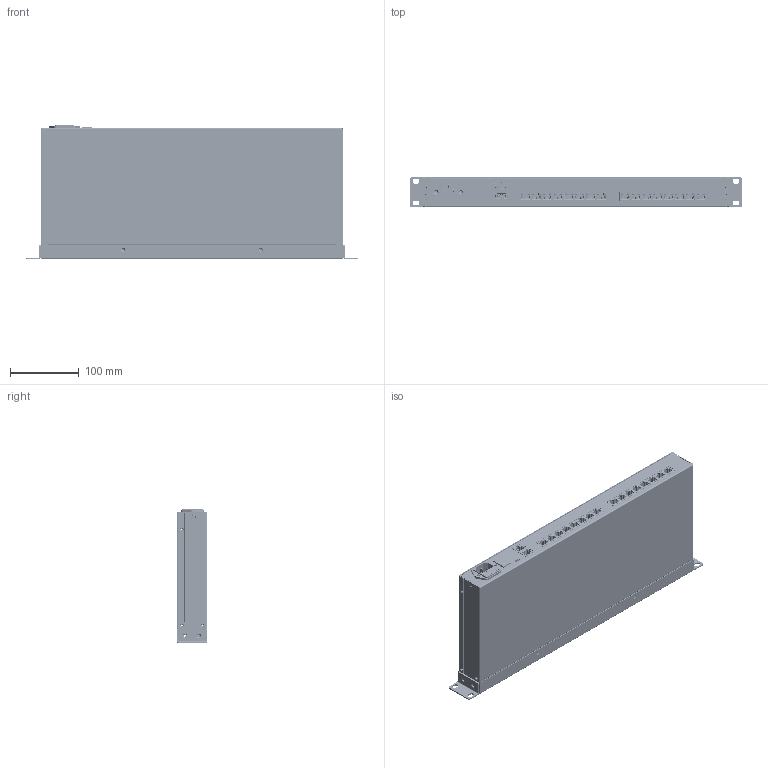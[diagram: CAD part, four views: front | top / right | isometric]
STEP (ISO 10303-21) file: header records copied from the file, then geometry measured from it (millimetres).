
FILE_DESCRIPTION((''),'2;1');
FILE_NAME('00-GCOM16-2NET-P_ASM','2026-07-30T16:22:34',('hepeizong'),(''),'CREO PARAMETRIC BY PTC INC, 2021404','CREO PARAMETRIC BY PTC INC, 2021404','');
FILE_SCHEMA(('CONFIG_CONTROL_DESIGN','SHAPE_APPEARANCE_LAYERS_GROUPS'));
Products named in the file (149): 04-BOT-COVER; _M30001; NUT-M3-9; NUT-M3; NUT-M3-7-TAIJIE; NUT-M4-7; 03-BOT-ME_ASM; DIANYUAN-CHATOU; 04-MAIN-PCB; ADMI0DE8BB573FZI_1_1; ADMI0DE8BB573FZI_2_1; ADMI0DE8BB573FZI_3_1; ADMI0DE8BB573FZI_4_1; ADMI0DE8BB573FZI_5_1; ADMI0DE8BB573FZI_6_1; ADMI0DE8BB573FZI_7_1; ADMI0DE8BB573FZI_8_1; ADMI0DE8BB573FZI_11_1; ADMI0DE8BB573FZI_12_1; ADMI0DE8BB573FZI_13_1; ADMI0DE8BB573FZI_14_1; ADMI0DE8BB573FZI_15_1; ADMI0DE8BB573FZI_16_1; ADMI0DE8BB573FZI_17_1; ADMI0DE8BB573FZI_18_1; ADMI0DE8BB573FZI_19_1; ADMI0DE8BB573FZI_20_1; ADMI0DE8BB573FZI_23_1; ADMI0DE8BB573FZI_24_1; ADMI0DE8BB573FZI_25_1; ADMI0DE8BB573FZI_26_1; ADMI0DE8BB573FZI_27_1; ADMI0DE8BB573FZI_28_1; ADMI0DE8BB573FZI_29_1; ADMI0DE8BB573FZI_30_1; ADMI0DE8BB573FZI_31_1; ADMI0DE8BB573FZI_34_1; ADMI0DE8BB573FZI_35_1; ADMI0DE8BB573FZI_36_1; ADMI0DE8BB573FZI_37_1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
Assembly tree (216 placements, depth 7):
  00-GCOM16-2NET-P_ASM
    02-BOT_ASM
      03-BOT-ME_ASM
        04-BOT-COVER
        _M30001  x2
        NUT-M3-9  x4
        NUT-M3  x8
        NUT-M3-7-TAIJIE  x8
        NUT-M4-7
      DIANYUAN-CHATOU
      03-MAIN-PCBA_ASM
        04-MAIN-PCB
        ST-RJ-561888G_RJ_50001_ASM  x2
          56-8_1_0001_ASM_1_ASM
            ADMI0DE8BB573FZI_ASM_1_ASM
              ADMI0DE8BB573FZI_1_1
              ADMI0DE8BB573FZI_2_1
              ADMI0DE8BB573FZI_3_1
              ADMI0DE8BB573FZI_4_1
              ADMI0DE8BB573FZI_5_1
              ADMI0DE8BB573FZI_6_1
              ADMI0DE8BB573FZI_7_1
              ADMI0DE8BB573FZI_8_1
              ADMI0DE8BB573FZI_11_1
              ADMI0DE8BB573FZI_12_1
              ADMI0DE8BB573FZI_13_1
              ADMI0DE8BB573FZI_14_1
              ADMI0DE8BB573FZI_15_1
              ADMI0DE8BB573FZI_16_1
              ADMI0DE8BB573FZI_17_1
              ADMI0DE8BB573FZI_18_1
              ADMI0DE8BB573FZI_19_1
              ADMI0DE8BB573FZI_20_1
              ADMI0DE8BB573FZI_23_1
              ADMI0DE8BB573FZI_24_1
              ADMI0DE8BB573FZI_25_1
              ADMI0DE8BB573FZI_26_1
              ADMI0DE8BB573FZI_27_1
              ADMI0DE8BB573FZI_28_1
              ADMI0DE8BB573FZI_29_1
              ADMI0DE8BB573FZI_30_1
              ADMI0DE8BB573FZI_31_1
              ADMI0DE8BB573FZI_34_1
              ADMI0DE8BB573FZI_35_1
              ADMI0DE8BB573FZI_36_1
              ADMI0DE8BB573FZI_37_1
              ADMI0DE8BB573FZI_38_1
              ADMI0DE8BB573FZI_39_1
              ADMI0DE8BB573FZI_40_1
              ADMI0DE8BB573FZI_41_1
              ADMI0DE8BB573FZI_42_1
              ADMI0DE8BB573FZI_45_1
              ADMI0DE8BB573FZI_46_1
              ADMI0DE8BB573FZI_47_1
              ADMI0DE8BB573FZI_48_1
              ADMI0DE8BB573FZI_49_1
              ADMI0DE8BB573FZI_50_1
              ADMI0DE8BB573FZI_51_1
              ADMI0DE8BB573FZI_52_1
              ADMI0DE8BB573FZI_53_1
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Bounding box: 482.6 x 44 x 195 mm (x, y, z)
Volume: 510746.2 mm3; surface area: 735808.7 mm2
Topology: 291 solids, 294 shells, 18792 faces, 50741 edges, 31997 vertices
Faces by surface type: plane 10827, bspline 5192, cylinder 2513, cone 153, torus 96, extrusion 11
Entity records: 669645 total; most frequent: CARTESIAN_POINT 320066, ORIENTED_EDGE 57902, DIRECTION 43943, EDGE_CURVE 29029, PRESENTATION_STYLE_ASSIGNMENT 23237, STYLED_ITEM 23210, VECTOR 19551, LINE 19540
